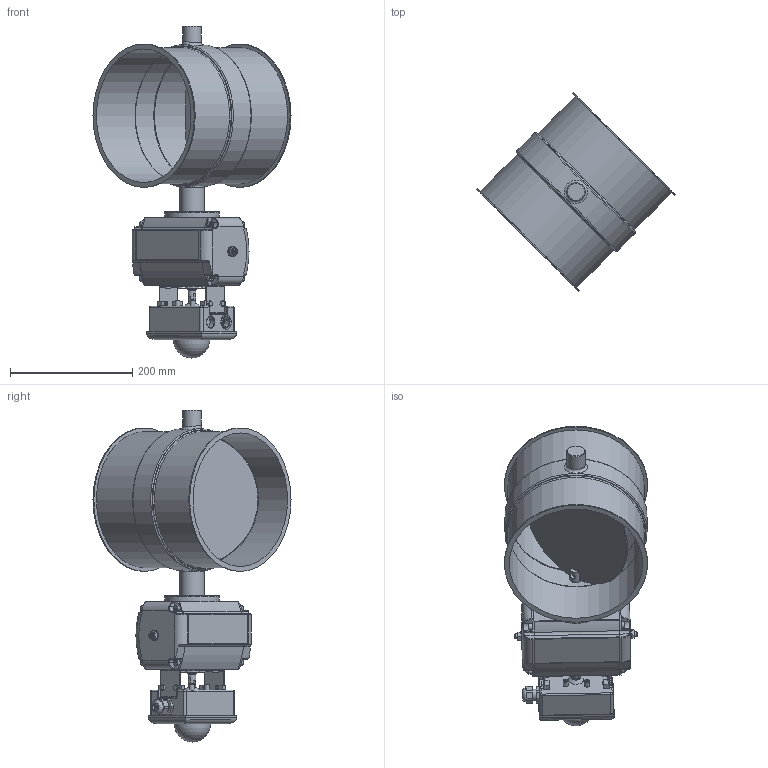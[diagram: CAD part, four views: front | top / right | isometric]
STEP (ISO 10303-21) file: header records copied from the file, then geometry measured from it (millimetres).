
FILE_DESCRIPTION((''),'2;1');
FILE_NAME('U:\Wolfgang\Marcel-3D\fertig\Kapitel 8\2221212.stp','2012-01-13T11:11:25',('iwienholt'),(''),'Autodesk Inventor 2010','Autodesk Inventor 2010','');
FILE_SCHEMA(('AUTOMOTIVE_DESIGN { 1 0 10303 214 1 1 1 1 }'));
Length unit declared in the file: millimetre
Products named in the file (21): 2221212; Bolzen D20; Scheibe224b; 2221210-1; Antrieb Flowserve D20; Pneumatischer SchwenkantriebS85D-2; Body; roter Verschluss; A1 Schwenkantrieb S85D; Body S085D; DIN EN ISO 4018 M5x10; DIN 125-1 A A 13; End Cap L85; End Cap R85; DIN 125-1 A A 8,4; DIN 916 M8  x  40; DIN 555 - ersetzt durch DIN EN 24034 M8; DIN EN ISO 4762 M6 x 12; Halterung; Deckel2; BuchseD20 90-50
Assembly tree (40 placements, depth 5):
  2221212
    Bolzen D20  x2
    Scheibe224b
    2221210-1
    Antrieb Flowserve D20
      Pneumatischer SchwenkantriebS85D-2
        Body
        roter Verschluss
        A1 Schwenkantrieb S85D
          Body S085D
          DIN EN ISO 4018 M5x10  x4
          DIN 125-1 A A 13  x2
          End Cap L85
          End Cap R85
          DIN 125-1 A A 8,4  x2
          DIN 916 M8  x  40  x2
          DIN 555 - ersetzt durch DIN EN 24034 M8  x2
          DIN EN ISO 4762 M6 x 12  x8
        Halterung  x2
        DIN EN ISO 4018 M5x10  x4
        Deckel2
      BuchseD20 90-50
Bounding box: 324.56 x 324.56 x 544 mm (x, y, z)
Volume: 2913262.7 mm3; surface area: 765816.2 mm2
Topology: 39 solids, 39 shells, 904 faces, 2097 edges, 1328 vertices
Faces by surface type: plane 450, cylinder 203, bspline 104, cone 104, torus 42, sphere 1
Full cylindrical faces by diameter (mm): 3.242 x4, 5 x10, 6 x12, 6.647 x4, 8 x6, 8.376 x1, 8.4 x2, 10 x10, 11.9 x2, 12.5 x1, 13 x5, 14 x1, 16 x2, 17 x1, 17.79 x2, 18 x3, 20 x6, 20.5 x1, 22 x1, 24 x3, 28.5 x1, 30 x3, 40 x3, 90 x1, 219 x3, 220 x1, 223 x2, 228 x1, 229 x1, 233 x1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
Entity records: 19803 total; most frequent: CARTESIAN_POINT 5773, DIRECTION 2794, ORIENTED_EDGE 2484, EDGE_CURVE 1242, AXIS2_PLACEMENT_3D 1089, VERTEX_POINT 872, EDGE_LOOP 872, VECTOR 616
